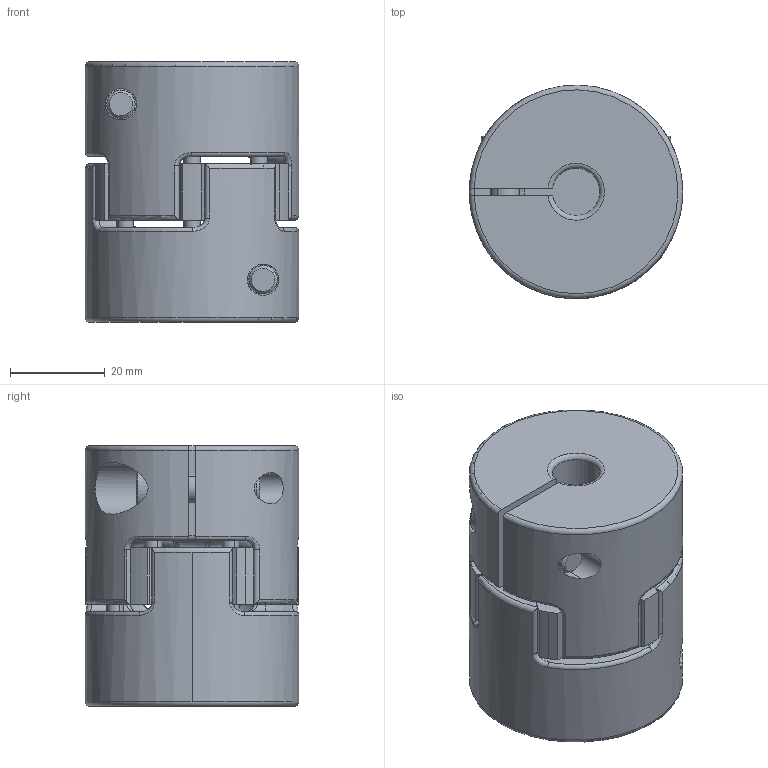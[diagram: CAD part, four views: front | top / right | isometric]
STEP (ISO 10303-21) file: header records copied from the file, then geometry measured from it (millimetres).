
FILE_DESCRIPTION (( 'STEP AP203' ), '1' );
FILE_NAME ('DXA-45X55-10-10.STEP', '2023-10-18T05:50:28', ( '' ), ( '' ), 'SwSTEP 2.0', 'SolidWorks 2020', '' );
FILE_SCHEMA (( 'CONFIG_CONTROL_DESIGN' ));
Length unit declared in the file: millimetre
Products named in the file (4): socket head cap screw_iso_ISO 4762 M6 x 20 - 20C; 45X55梅花夹紧型端部件; DXA-45X55-10-10; 45繩豪菜
Assembly tree (5 placements, depth 2):
  DXA-45X55-10-10
    45X55梅花夹紧型端部件  x2
    45繩豪菜
    socket head cap screw_iso_ISO 4762 M6 x 20 - 20C  x2
Bounding box: 45 x 45 x 55 mm (x, y, z)
Volume: 74986.1 mm3; surface area: 24496.2 mm2
Topology: 5 solids, 5 shells, 286 faces, 693 edges, 420 vertices
Faces by surface type: cylinder 133, plane 61, torus 56, bspline 24, cone 12
Entity records: 6671 total; most frequent: CARTESIAN_POINT 2096, DIRECTION 928, ORIENTED_EDGE 832, EDGE_CURVE 416, AXIS2_PLACEMENT_3D 398, VERTEX_POINT 261, CIRCLE 226, EDGE_LOOP 195
